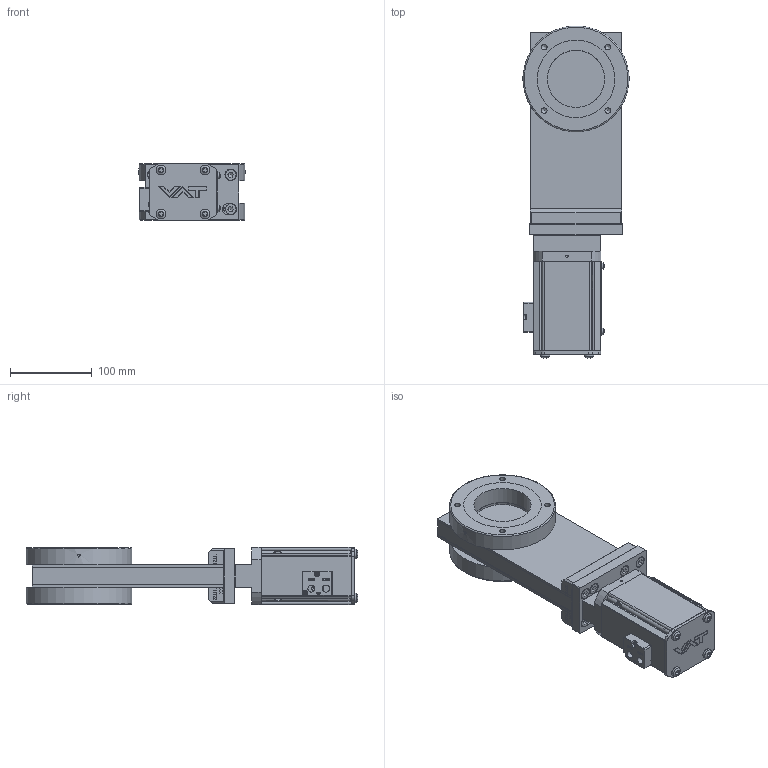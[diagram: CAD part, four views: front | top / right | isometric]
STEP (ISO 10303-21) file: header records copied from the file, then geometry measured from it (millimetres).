
FILE_DESCRIPTION(/* description */ (''),/* implementation_level */ '2;1');
FILE_NAME(/* name */ '1460745250_203.stp',/* time_stamp */ '2016-01-11T10:11:08+01:00',/* author */ (''),/* organization */ (''),/* preprocessor_version */ 'ST-DEVELOPER v15',/* originating_system */ 'SIEMENS PLM Software NX 9.0',/* authorisation */ '');
FILE_SCHEMA (('AP203_CONFIGURATION_CONTROLLED_3D_DESIGN_OF_MECHANICAL_PARTS_AND_ASSEMBLIES_MIM_LF { 1 0 10303 403 2 1 2}'));
Length unit declared in the file: millimetre
Products named in the file (32): 441451_24371ID; 21436-01.1_24384ID; 21437-01.1_24383ID; 21438-01.1; 441451_24380ID; 21437-01.1_24379ID; 21436-01.1_24373ID; n-6024-526; N-7100-014_2.1; 94828-01.1; N-7100-012_3.1; N-6024-538.1; 68057-01.1; N-6024-571.1; 85948-01.1; 94221-01.1; 73002-01.1; 69127.1; 72872-01.1; 23553-01.1_24375ID; 23553-01.1; n-6099-454.1; 63215-01.1; 218198.1; 790428; 94827-r1.1; 78103-r1.1; 94234-r1.2; 82467-r1.1; 22974-r1.2_MODEL; 23552-r1.2_MODEL; 709924
Assembly tree (49 placements, depth 4):
  709924
    23552-r1.2_MODEL
      n-6099-454.1  x2
      23553-01.1
      23553-01.1_24375ID
      22974-r1.2_MODEL
        21436-01.1_24373ID
        21437-01.1_24379ID
        441451_24380ID
        21438-01.1
        21437-01.1_24383ID
        21436-01.1_24384ID
        441451_24371ID
    790428
    82467-r1.1
      72872-01.1
      69127.1
    218198.1  x8
    63215-01.1
    94234-r1.2
      73002-01.1  x4
      94221-01.1
      85948-01.1
      N-6024-571.1  x4
    78103-r1.1
      68057-01.1
      N-6024-538.1  x4
    94827-r1.1
      N-7100-012_3.1
      94828-01.1
      N-7100-014_2.1
      n-6024-526  x2
Bounding box: 130 x 406.72 x 70 mm (x, y, z)
Volume: 1307213.3 mm3; surface area: 416759.9 mm2
Topology: 119 solids, 119 shells, 1419 faces, 3256 edges, 2182 vertices
Faces by surface type: plane 1051, cylinder 240, cone 71, extrusion 29, torus 18, sphere 10
Full cylindrical faces by diameter (mm): 0.7 x1, 2.125 x1, 2.5 x2, 2.65 x1, 2.8 x2, 3 x5, 3.3 x6, 4 x10, 4.2 x3, 4.3 x4, 4.35 x2, 4.4 x4, 4.625 x4, 5 x7, 5.9 x1, 6 x14, 6.6 x4, 6.66 x8, 6.7 x8, 6.8 x20, 7.05 x1, 7.982 x4, 8 x20, 8.611 x2, 9 x8, 9.1 x1, 12 x4, 12.7 x1, 13 x8, 14.1 x5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
Entity records: 39292 total; most frequent: CARTESIAN_POINT 7568, ORIENTED_EDGE 4570, DIRECTION 4533, EDGE_CURVE 2285, VERTEX_POINT 1661, AXIS2_PLACEMENT_3D 1529, VECTOR 1475, LINE 1446
